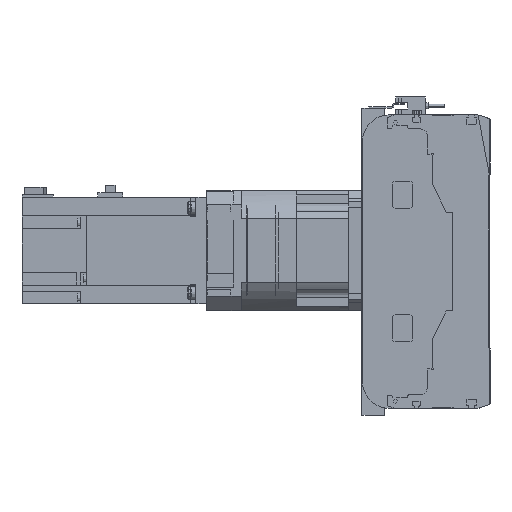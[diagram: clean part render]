
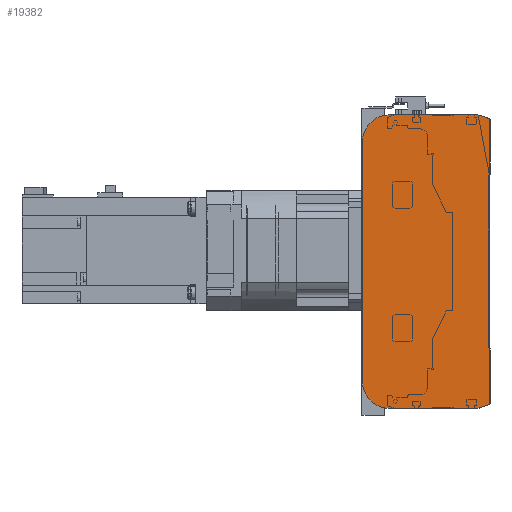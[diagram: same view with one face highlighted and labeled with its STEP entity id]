
A CAD part, left-side view. The second image highlights one B-rep face of the part: STEP entity #19382.
In plain terms, the highlighted planar face has unit normal (-1, 0, 0).
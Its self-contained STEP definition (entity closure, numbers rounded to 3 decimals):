
#1112=CIRCLE('',#21115,20.);
#1113=CIRCLE('',#21118,20.);
#4778=ORIENTED_EDGE('',*,*,#8392,.F.);
#4779=ORIENTED_EDGE('',*,*,#8434,.F.);
#4780=ORIENTED_EDGE('',*,*,#8432,.F.);
#4781=ORIENTED_EDGE('',*,*,#8430,.F.);
#4782=ORIENTED_EDGE('',*,*,#8419,.F.);
#4783=ORIENTED_EDGE('',*,*,#8410,.F.);
#4784=ORIENTED_EDGE('',*,*,#8406,.F.);
#4785=ORIENTED_EDGE('',*,*,#8403,.F.);
#8392=EDGE_CURVE('',#10543,#10544,#12283,.T.);
#8403=EDGE_CURVE('',#10544,#10551,#12294,.T.);
#8406=EDGE_CURVE('',#10551,#10553,#12297,.T.);
#8410=EDGE_CURVE('',#10553,#10554,#12301,.T.);
#8419=EDGE_CURVE('',#10554,#10560,#12310,.T.);
#8430=EDGE_CURVE('',#10560,#10567,#1112,.T.);
#8432=EDGE_CURVE('',#10567,#10568,#12322,.T.);
#8434=EDGE_CURVE('',#10568,#10543,#1113,.T.);
#10543=VERTEX_POINT('',#32129);
#10544=VERTEX_POINT('',#32131);
#10551=VERTEX_POINT('',#32150);
#10553=VERTEX_POINT('',#32156);
#10554=VERTEX_POINT('',#32162);
#10560=VERTEX_POINT('',#32178);
#10567=VERTEX_POINT('',#32197);
#10568=VERTEX_POINT('',#32201);
#12283=LINE('',#32130,#13874);
#12294=LINE('',#32149,#13885);
#12297=LINE('',#32155,#13888);
#12301=LINE('',#32161,#13892);
#12310=LINE('',#32177,#13901);
#12322=LINE('',#32200,#13913);
#13874=VECTOR('',#25542,1000.);
#13885=VECTOR('',#25555,1000.);
#13888=VECTOR('',#25560,1000.);
#13892=VECTOR('',#25566,1000.);
#13901=VECTOR('',#25577,1000.);
#13913=VECTOR('',#25595,1000.);
#15298=EDGE_LOOP('',(#4778,#4779,#4780,#4781,#4782,#4783,#4784,#4785));
#17162=FACE_BOUND('',#15298,.T.);
#18465=PLANE('',#21119);
#19382=ADVANCED_FACE('',(#17162),#18465,.F.);
#21115=AXIS2_PLACEMENT_3D('',#32196,#25590,#25591);
#21118=AXIS2_PLACEMENT_3D('',#32204,#25599,#25600);
#21119=AXIS2_PLACEMENT_3D('',#32205,#25601,#25602);
#25542=DIRECTION('',(0.,-1.,0.));
#25555=DIRECTION('',(0.,-0.945,-0.328));
#25560=DIRECTION('',(0.,0.,-1.));
#25566=DIRECTION('',(0.,0.945,-0.328));
#25577=DIRECTION('',(0.,1.,0.));
#25590=DIRECTION('',(1.,0.,0.));
#25591=DIRECTION('',(0.,0.,-1.));
#25595=DIRECTION('',(0.,0.,1.));
#25599=DIRECTION('',(1.,0.,0.));
#25600=DIRECTION('',(0.,0.,-1.));
#25601=DIRECTION('',(1.,0.,0.));
#25602=DIRECTION('',(0.,0.,-1.));
#32129=CARTESIAN_POINT('',(0.,75.5,110.));
#32130=CARTESIAN_POINT('',(0.,75.5,110.));
#32131=CARTESIAN_POINT('',(0.,9.,110.));
#32149=CARTESIAN_POINT('',(0.,9.,110.));
#32150=CARTESIAN_POINT('',(0.,0.5,107.05));
#32155=CARTESIAN_POINT('',(0.,0.5,107.05));
#32156=CARTESIAN_POINT('',(0.,0.5,-107.05));
#32161=CARTESIAN_POINT('',(0.,0.5,-107.05));
#32162=CARTESIAN_POINT('',(0.,9.,-110.));
#32177=CARTESIAN_POINT('',(0.,9.,-110.));
#32178=CARTESIAN_POINT('',(0.,75.5,-110.));
#32196=CARTESIAN_POINT('',(0.,75.5,-90.));
#32197=CARTESIAN_POINT('',(0.,95.5,-90.));
#32200=CARTESIAN_POINT('',(0.,95.5,-90.));
#32201=CARTESIAN_POINT('',(0.,95.5,90.));
#32204=CARTESIAN_POINT('',(0.,75.5,90.));
#32205=CARTESIAN_POINT('',(0.,75.5,-90.));
